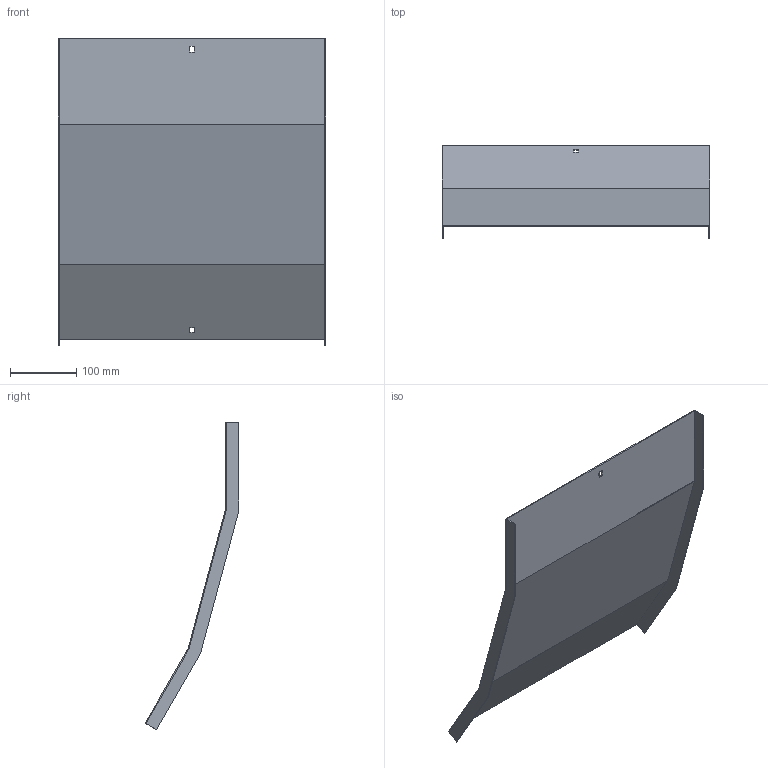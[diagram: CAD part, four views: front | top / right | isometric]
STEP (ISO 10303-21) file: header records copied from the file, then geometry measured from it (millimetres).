
FILE_DESCRIPTION (( 'STEP AP214' ), '1' );
FILE_NAME ('32N5R400_H150.step', '2025-02-21T14:28:09', ( '' ), ( '' ), 'SwSTEP 2.0', 'SolidWorks 2023', '' );
FILE_SCHEMA (( 'AUTOMOTIVE_DESIGN' ));
Length unit declared in the file: millimetre
Products named in the file (1): 32N5R400_H150
Bounding box: 403 x 141.68 x 464.12 mm (x, y, z)
Volume: 316517.4 mm3; surface area: 424903.7 mm2
Topology: 1 solids, 1 shells, 26 faces, 72 edges, 48 vertices
Faces by surface type: plane 26
Entity records: 847 total; most frequent: CARTESIAN_POINT 147, ORIENTED_EDGE 144, DIRECTION 126, LINE 72, VECTOR 72, EDGE_CURVE 72, VERTEX_POINT 48, EDGE_LOOP 30
